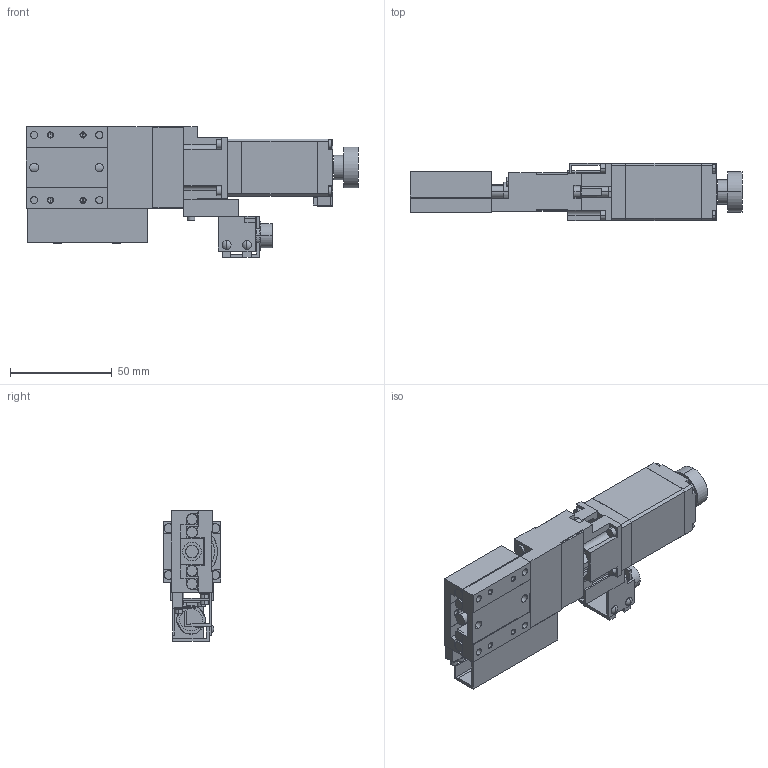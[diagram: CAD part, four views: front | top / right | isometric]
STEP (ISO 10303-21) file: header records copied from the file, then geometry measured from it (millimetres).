
FILE_DESCRIPTION(('STEP AP203'),'1');
FILE_NAME('C:/3D-Trans/3D_PG413M-R□-D4+231107.step','2024-02-26T06:53:32',(' '),(' '),'Spatial InterOp 3D',' ',' ');
FILE_SCHEMA(('CONFIG_CONTROL_DESIGN'));
Length unit declared in the file: millimetre
Products named in the file (6): 1; 2; 3; 4; 5; 6
Bounding box: 163 x 28 x 64 mm (x, y, z)
Volume: 101308.2 mm3; surface area: 48124.9 mm2
Topology: 6 solids, 6 shells, 733 faces, 1877 edges, 1194 vertices
Faces by surface type: plane 458, cylinder 223, cone 48, sphere 4
Entity records: 22429 total; most frequent: CARTESIAN_POINT 3974, DIRECTION 3873, ORIENTED_EDGE 3706, EDGE_CURVE 1853, LINE 1295, VECTOR 1295, AXIS2_PLACEMENT_3D 1289, VERTEX_POINT 1194
